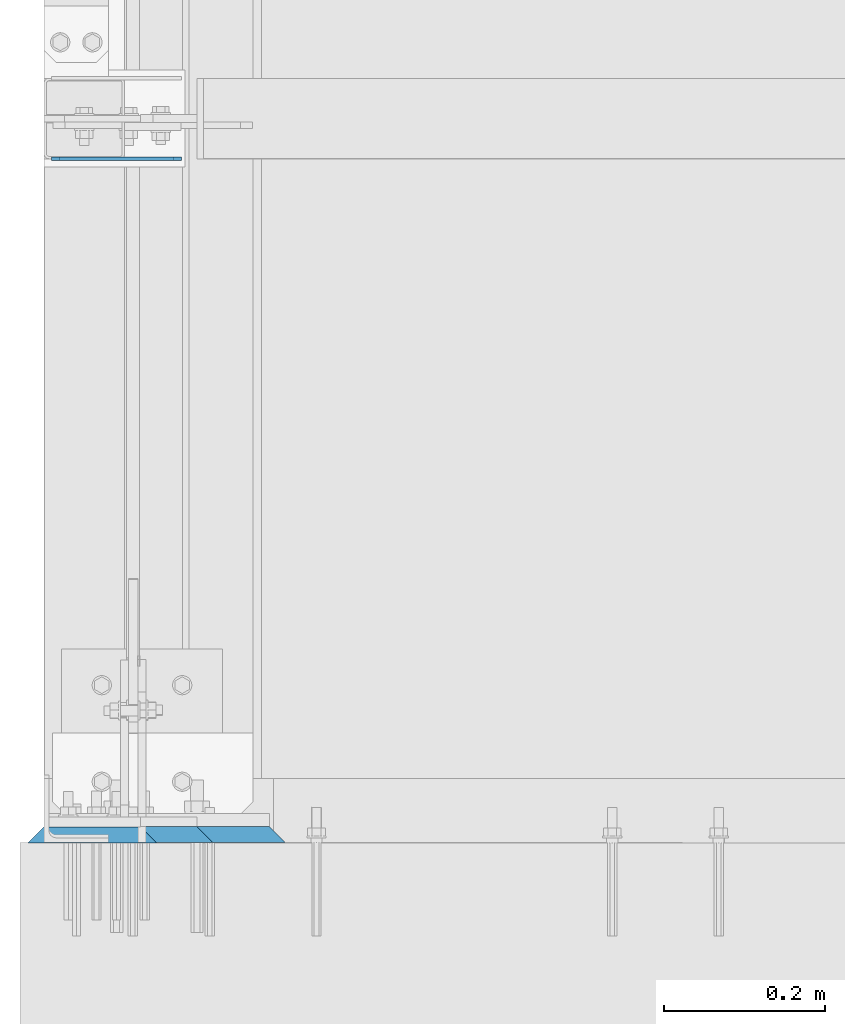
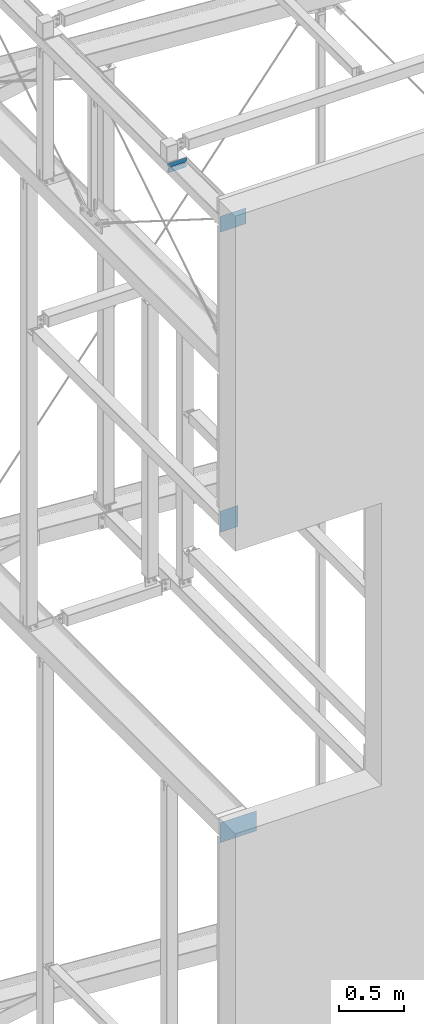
# One storey, part 98 of 271: 5 plates, 4 elements without a shape of their own.
"""IFC2X3 building model written with IfcOpenShell, lengths in millimetres."""

from ifc_helpers import new_model, si_unit, frame, origin_with_axes, place, context, subcontext, project, spatial, polyline, outline, extrude, boolean, material, type_object, element, aggregate, save


model = new_model("IFC2X3")

# Units and contexts
model_context = context("Model", 3, precision=1e-05, world=origin_with_axes())
body_context = subcontext(model_context, "Body", "Model", "MODEL_VIEW")
ifc_project = project(units=[si_unit("LENGTHUNIT", "METRE", prefix="MILLI"), si_unit("AREAUNIT", "SQUARE_METRE"), si_unit("VOLUMEUNIT", "CUBIC_METRE"), si_unit("MASSUNIT", "GRAM", prefix="KILO"), si_unit("TIMEUNIT", "SECOND"), si_unit("PLANEANGLEUNIT", "RADIAN"), si_unit("SOLIDANGLEUNIT", "STERADIAN"), si_unit("THERMODYNAMICTEMPERATUREUNIT", "DEGREE_CELSIUS"), si_unit("LUMINOUSINTENSITYUNIT", "LUMEN")], contexts=[model_context])

# Site, building, storey
site_placement = place(None, origin_with_axes())
site = spatial("IfcSite", under=ifc_project, at=site_placement, Name="Undefined", CompositionType="ELEMENT")
building_placement = place(site_placement, origin_with_axes())
building = spatial("IfcBuilding", under=site, at=building_placement, Name="Undefined", CompositionType="ELEMENT")
storey_placement = place(building_placement, origin_with_axes())
storey = spatial("IfcBuildingStorey", under=building, at=storey_placement, Name="Undefined", CompositionType="ELEMENT", Elevation=0.0)

# Assembly, plates
assembly_1_placement = place(storey_placement, origin_with_axes())
assembly_1 = element("IfcElementAssembly", 1, at=assembly_1_placement, inside=storey, AssemblyPlace="NOTDEFINED", PredefinedType="RIGID_FRAME")
ifc_material_1 = material(Name="STEEL/S355JR")
plate_type_1 = type_object("IfcPlateType", Name="BL4*42", PredefinedType="NOTDEFINED")
plate_1_placement = place(assembly_1_placement, frame((-2.62431290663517, 849.32498425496, 19959.8499999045), z_axis=(0.0, 1.0, 0.0), x_axis=(0.0, 0.0, 1.0)))
plate_1 = element("IfcPlate", 2, at=plate_1_placement, type_object=plate_type_1, material=ifc_material_1, Name="BLACHA", ObjectType="BL4*42", context=body_context, shape_type="SweptSolid", body=[
    extrude(outline(polyline([(0.0, 0.0), (31.8499984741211, 0.0), (41.8499984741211, 10.0), (41.8499984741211, 152.0), (31.8499984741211, 162.0), (0.0, 162.0), (0.0, 0.0)])), frame((0.0, 0.0, -2.0), z_axis=(0.0, 0.0, 1.0), x_axis=(1.0, 0.0, 0.0)), (0.0, 0.0, 1.0), 4.0),
])
plate_2_placement = place(assembly_1_placement, frame((-2.62431290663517, 849.32498425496, 20007.0), z_axis=(0.0, 1.0, 0.0), x_axis=(0.0, 0.0, 1.0)))
plate_2 = element("IfcPlate", 3, at=plate_2_placement, type_object=plate_type_1, material=ifc_material_1, Name="BLACHA", ObjectType="BL4*42", context=body_context, shape_type="SweptSolid", body=[
    extrude(outline(polyline([(0.0, 10.0), (10.0, -1.24344978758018e-14), (41.8499984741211, -1.06581410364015e-14), (41.8499984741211, 162.0), (10.0, 162.0), (0.0, 152.0), (0.0, 10.0)])), frame((0.0, 0.0, -2.0), z_axis=(0.0, 0.0, 1.0), x_axis=(1.0, 0.0, 0.0)), (0.0, 0.0, 1.0), 4.0),
])
aggregate(assembly_1, [plate_1, plate_2])

# Assembly, plate
assembly_2_placement = place(storey_placement, origin_with_axes())
assembly_2 = element("IfcElementAssembly", 4, at=assembly_2_placement, inside=storey, Name="GROUT", AssemblyPlace="NOTDEFINED", PredefinedType="NOTDEFINED")
ifc_material_2 = material(Name="Undefined/GROUT")
plate_type_2 = type_object("IfcPlateType", Name="BL20*160", PredefinedType="NOTDEFINED")
plate_3_placement = place(assembly_2_placement, frame((-31.6243129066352, 9.05211980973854, 17124.3499999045), z_axis=(0.0, 1.0, 0.0), x_axis=(0.0, 0.0, 1.0)))
plate_3 = element("IfcPlate", 5, at=plate_3_placement, type_object=plate_type_2, material=ifc_material_2, Name="GROUT", ObjectType="BL20*160", context=body_context, shape_type="CSG", body=[
    boolean("DIFFERENCE", boolean("DIFFERENCE", boolean("DIFFERENCE", boolean("DIFFERENCE", extrude(outline(polyline([(0.0, 0.0), (200.0, 0.0), (200.0, 160.0), (0.0, 160.0), (0.0, 0.0)])), frame((0.0, 0.0, -10.0), z_axis=(0.0, 0.0, 1.0), x_axis=(1.0, 0.0, 0.0)), (0.0, 0.0, 1.0), 20.0), extrude(outline(polyline([(0.0, 0.0), (44.2842712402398, -1.45519152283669e-11), (22.1421356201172, 22.1421356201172), (0.0, 0.0)])), frame((-5.65685424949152, 168.0, -15.6568542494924), z_axis=(0.0, -1.0, 0.0), x_axis=(0.707106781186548, 0.0, 0.707106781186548)), (0.0, 0.0, 1.0), 176.0)), extrude(outline(polyline([(0.0, 0.0), (42.2842712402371, -1.54614099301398e-11), (21.1421356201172, 21.1421356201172), (0.0, 0.0)])), frame((207.0, 164.949747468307, -14.9497474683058), z_axis=(-1.0, 0.0, 1.38777878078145e-17), x_axis=(0.0, -0.707106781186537, 0.707106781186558)), (0.0, 0.0, 1.0), 214.0)), extrude(outline(polyline([(0.0, 0.0), (40.2842712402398, -1.45519152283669e-11), (20.1421356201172, 20.1421356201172), (0.0, 0.0)])), frame((204.24264068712, -6.0, -14.2426406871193), z_axis=(0.0, 1.0, 0.0), x_axis=(-0.707106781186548, 0.0, 0.707106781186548)), (0.0, 0.0, 1.0), 172.0)), extrude(outline(polyline([(0.0, 0.0), (38.284271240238, -1.45519152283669e-11), (19.1421356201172, 19.1421356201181), (0.0, 0.0)])), frame((-5.0, -3.53553390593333, -13.5355339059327), z_axis=(1.0, 0.0, 0.0), x_axis=(0.0, 0.707106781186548, 0.707106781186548)), (0.0, 0.0, 1.0), 210.0)),
])
aggregate(assembly_2, [plate_3])

assembly_3_placement = place(storey_placement, origin_with_axes())
assembly_3 = element("IfcElementAssembly", 6, at=assembly_3_placement, inside=storey, Name="GROUT", AssemblyPlace="NOTDEFINED", PredefinedType="NOTDEFINED")
plate_type_3 = type_object("IfcPlateType", Name="BL20*188", PredefinedType="NOTDEFINED")
plate_4_placement = place(assembly_3_placement, frame((-31.6243129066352, 9.32498425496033, 14412.3499999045), z_axis=(0.0, 1.0, 0.0), x_axis=(1.0, 0.0, 0.0)))
plate_4 = element("IfcPlate", 7, at=plate_4_placement, type_object=plate_type_3, material=ifc_material_2, Name="GROUT", ObjectType="BL20*188", context=body_context, shape_type="CSG", body=[
    boolean("DIFFERENCE", boolean("DIFFERENCE", boolean("DIFFERENCE", boolean("DIFFERENCE", extrude(outline(polyline([(0.0, 0.0), (320.0, 0.0), (320.0, 188.0), (0.0, 188.0), (0.0, 0.0)])), frame((0.0, 0.0, -10.0), z_axis=(0.0, 0.0, 1.0), x_axis=(1.0, 0.0, 0.0)), (0.0, 0.0, 1.0), 20.0), extrude(outline(polyline([(0.0, 0.0), (44.2842712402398, -1.45519152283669e-11), (22.1421356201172, 22.1421356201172), (0.0, 0.0)])), frame((-5.65685424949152, 196.0, -15.6568542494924), z_axis=(0.0, -1.0, 0.0), x_axis=(0.707106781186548, 0.0, 0.707106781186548)), (0.0, 0.0, 1.0), 204.0)), extrude(outline(polyline([(0.0, 0.0), (42.2842712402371, -1.54614099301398e-11), (21.1421356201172, 21.1421356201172), (0.0, 0.0)])), frame((327.0, 192.949747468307, -14.9497474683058), z_axis=(-1.0, 0.0, 1.38777878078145e-17), x_axis=(0.0, -0.707106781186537, 0.707106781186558)), (0.0, 0.0, 1.0), 334.0)), extrude(outline(polyline([(0.0, 0.0), (40.2842712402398, -1.45519152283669e-11), (20.1421356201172, 20.1421356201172), (0.0, 0.0)])), frame((324.24264068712, -6.0, -14.2426406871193), z_axis=(0.0, 1.0, 0.0), x_axis=(-0.707106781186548, 0.0, 0.707106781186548)), (0.0, 0.0, 1.0), 200.0)), extrude(outline(polyline([(0.0, 0.0), (38.284271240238, -1.45519152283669e-11), (19.1421356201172, 19.1421356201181), (0.0, 0.0)])), frame((-5.0, -3.53553390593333, -13.5355339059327), z_axis=(1.0, 0.0, 0.0), x_axis=(0.0, 0.707106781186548, 0.707106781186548)), (0.0, 0.0, 1.0), 330.0)),
])
aggregate(assembly_3, [plate_4])

assembly_4_placement = place(storey_placement, origin_with_axes())
assembly_4 = element("IfcElementAssembly", 8, at=assembly_4_placement, inside=storey, Name="GROUT", AssemblyPlace="NOTDEFINED", PredefinedType="NOTDEFINED")
plate_type_4 = type_object("IfcPlateType", Name="BL20*150", PredefinedType="NOTDEFINED")
plate_5_placement = place(assembly_4_placement, frame((-31.6243129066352, 9.32498425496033, 20079.3499999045), z_axis=(0.0, 1.0, 0.0), x_axis=(1.0, 0.0, 0.0)))
plate_5 = element("IfcPlate", 9, at=plate_5_placement, type_object=plate_type_4, material=ifc_material_2, Name="GROUT", ObjectType="BL20*150", context=body_context, shape_type="CSG", body=[
    boolean("DIFFERENCE", boolean("DIFFERENCE", boolean("DIFFERENCE", boolean("DIFFERENCE", extrude(outline(polyline([(0.0, 0.0), (230.0, 0.0), (230.0, 150.0), (1.4210854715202e-14, 150.0), (0.0, 0.0)])), frame((0.0, 0.0, -10.0), z_axis=(0.0, 0.0, 1.0), x_axis=(1.0, 0.0, 0.0)), (0.0, 0.0, 1.0), 20.0), extrude(outline(polyline([(0.0, 0.0), (44.2842712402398, -1.45519152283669e-11), (22.1421356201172, 22.1421356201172), (0.0, 0.0)])), frame((-5.65685424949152, 158.0, -15.6568542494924), z_axis=(0.0, -1.0, 0.0), x_axis=(0.707106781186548, 0.0, 0.707106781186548)), (0.0, 0.0, 1.0), 166.0)), extrude(outline(polyline([(0.0, 0.0), (42.2842712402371, -1.54614099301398e-11), (21.1421356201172, 21.1421356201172), (0.0, 0.0)])), frame((237.0, 154.949747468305, -14.9497474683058), z_axis=(-1.0, 0.0, 1.38777878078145e-17), x_axis=(0.0, -0.707106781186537, 0.707106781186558)), (0.0, 0.0, 1.0), 244.0)), extrude(outline(polyline([(0.0, 0.0), (40.2842712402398, -1.45519152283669e-11), (20.1421356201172, 20.1421356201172), (0.0, 0.0)])), frame((234.24264068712, -6.0, -14.2426406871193), z_axis=(0.0, 1.0, 0.0), x_axis=(-0.707106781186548, 0.0, 0.707106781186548)), (0.0, 0.0, 1.0), 162.0)), extrude(outline(polyline([(0.0, 0.0), (38.284271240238, -1.45519152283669e-11), (19.1421356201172, 19.1421356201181), (0.0, 0.0)])), frame((-5.0, -3.53553390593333, -13.5355339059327), z_axis=(1.0, 0.0, 0.0), x_axis=(0.0, 0.707106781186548, 0.707106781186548)), (0.0, 0.0, 1.0), 240.0)),
])
aggregate(assembly_4, [plate_5])

save(model, "model.ifc")
